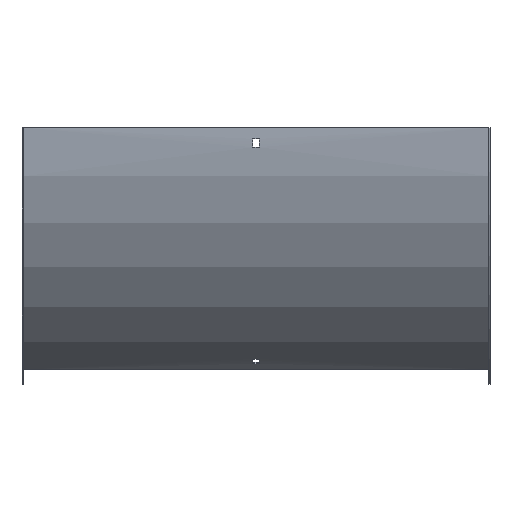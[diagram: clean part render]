
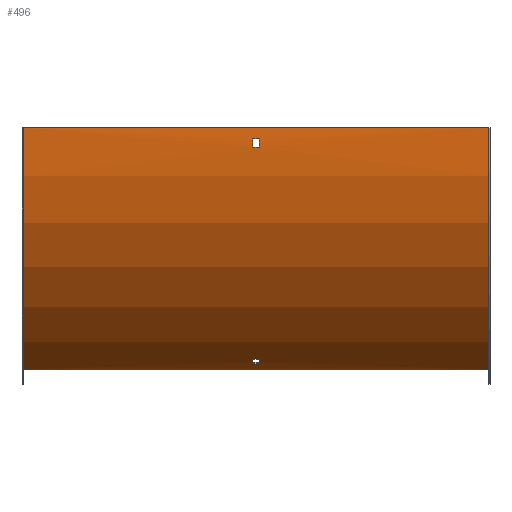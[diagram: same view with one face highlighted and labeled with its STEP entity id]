
A CAD part, front view. The second image highlights one B-rep face of the part: STEP entity #496.
In plain terms, the highlighted cylindrical face has radius 300 mm (diameter 600 mm), a partial arc.
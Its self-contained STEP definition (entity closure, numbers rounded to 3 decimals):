
#3 = CARTESIAN_POINT ( 'NONE',  ( 3.25, 130.681, -248.67 ) ) ;
#7 = ORIENTED_EDGE ( 'NONE', *, *, #326, .T. ) ;
#10 = EDGE_CURVE ( 'NONE', #549, #385, #30, .T. ) ;
#12 = FACE_BOUND ( 'NONE', #599, .T. ) ;
#23 = CIRCLE ( 'NONE', #131, 300. ) ;
#24 = AXIS2_PLACEMENT_3D ( 'NONE', #327, #494, #64 ) ;
#27 = DIRECTION ( 'NONE',  ( 0., 0., 1. ) ) ;
#28 = ORIENTED_EDGE ( 'NONE', *, *, #374, .F. ) ;
#30 = LINE ( 'NONE', #461, #36 ) ;
#36 = VECTOR ( 'NONE', #415, 1000. ) ;
#39 = EDGE_CURVE ( 'NONE', #192, #313, #365, .T. ) ;
#42 = DIRECTION ( 'NONE',  ( 0., 0., 1. ) ) ;
#46 = VERTEX_POINT ( 'NONE', #3 ) ;
#49 = EDGE_CURVE ( 'NONE', #560, #271, #148, .T. ) ;
#50 = CARTESIAN_POINT ( 'NONE',  ( 3.25, 138.228, -253.6 ) ) ;
#51 = DIRECTION ( 'NONE',  ( -1., 0., 0. ) ) ;
#56 = DIRECTION ( 'NONE',  ( 0., 0., 1. ) ) ;
#59 = CARTESIAN_POINT ( 'NONE',  ( 251.5, 138.228, -253.6 ) ) ;
#64 = DIRECTION ( 'NONE',  ( 0., 0., 1. ) ) ;
#66 = EDGE_CURVE ( 'NONE', #573, #192, #375, .T. ) ;
#75 = CIRCLE ( 'NONE', #521, 300. ) ;
#89 = DIRECTION ( 'NONE',  ( -1., 0., 0. ) ) ;
#101 = CIRCLE ( 'NONE', #449, 300. ) ;
#107 = ORIENTED_EDGE ( 'NONE', *, *, #474, .T. ) ;
#122 = CARTESIAN_POINT ( 'NONE',  ( 251.5, -0.764, -21. ) ) ;
#125 = AXIS2_PLACEMENT_3D ( 'NONE', #431, #481, #178 ) ;
#128 = DIRECTION ( 'NONE',  ( 1., 0., 0. ) ) ;
#131 = AXIS2_PLACEMENT_3D ( 'NONE', #567, #51, #603 ) ;
#135 = CIRCLE ( 'NONE', #495, 300. ) ;
#148 = LINE ( 'NONE', #424, #284 ) ;
#156 = VERTEX_POINT ( 'NONE', #438 ) ;
#158 = EDGE_CURVE ( 'NONE', #385, #255, #135, .T. ) ;
#178 = DIRECTION ( 'NONE',  ( 0., 1., 0. ) ) ;
#181 = DIRECTION ( 'NONE',  ( -1., 0., 0. ) ) ;
#192 = VERTEX_POINT ( 'NONE', #604 ) ;
#200 = ORIENTED_EDGE ( 'NONE', *, *, #66, .T. ) ;
#202 = EDGE_LOOP ( 'NONE', ( #428, #307, #417, #513 ) ) ;
#209 = EDGE_CURVE ( 'NONE', #271, #156, #101, .T. ) ;
#212 = ORIENTED_EDGE ( 'NONE', *, *, #39, .T. ) ;
#216 = VECTOR ( 'NONE', #482, 1000. ) ;
#229 = VECTOR ( 'NONE', #589, 1000. ) ;
#233 = FACE_BOUND ( 'NONE', #466, .T. ) ;
#246 = CARTESIAN_POINT ( 'NONE',  ( -250., 298.5, 0. ) ) ;
#250 = EDGE_CURVE ( 'NONE', #549, #498, #75, .T. ) ;
#255 = VERTEX_POINT ( 'NONE', #506 ) ;
#268 = CARTESIAN_POINT ( 'NONE',  ( 3.25, -1.26, -12. ) ) ;
#271 = VERTEX_POINT ( 'NONE', #306 ) ;
#279 = CARTESIAN_POINT ( 'NONE',  ( 251.5, 130.681, -248.67 ) ) ;
#284 = VECTOR ( 'NONE', #181, 1000. ) ;
#299 = CARTESIAN_POINT ( 'NONE',  ( 250., 298.5, 0. ) ) ;
#300 = EDGE_CURVE ( 'NONE', #498, #255, #432, .T. ) ;
#306 = CARTESIAN_POINT ( 'NONE',  ( -3.25, -1.26, -12. ) ) ;
#307 = ORIENTED_EDGE ( 'NONE', *, *, #10, .F. ) ;
#311 = CARTESIAN_POINT ( 'NONE',  ( -3.25, 298.5, 0. ) ) ;
#313 = VERTEX_POINT ( 'NONE', #575 ) ;
#321 = CARTESIAN_POINT ( 'NONE',  ( -250., 148.5, -259.808 ) ) ;
#323 = CARTESIAN_POINT ( 'NONE',  ( 250., -1.5, 0. ) ) ;
#326 = EDGE_CURVE ( 'NONE', #313, #46, #530, .T. ) ;
#327 = CARTESIAN_POINT ( 'NONE',  ( 251.5, 298.5, 0. ) ) ;
#331 = VECTOR ( 'NONE', #426, 1000. ) ;
#335 = CYLINDRICAL_SURFACE ( 'NONE', #24, 300. ) ;
#343 = ORIENTED_EDGE ( 'NONE', *, *, #49, .F. ) ;
#359 = CARTESIAN_POINT ( 'NONE',  ( 3.25, -0.764, -21. ) ) ;
#360 = VERTEX_POINT ( 'NONE', #359 ) ;
#365 = CIRCLE ( 'NONE', #125, 300. ) ;
#374 = EDGE_CURVE ( 'NONE', #360, #560, #23, .T. ) ;
#375 = LINE ( 'NONE', #59, #576 ) ;
#376 = CARTESIAN_POINT ( 'NONE',  ( 3.25, 298.5, 0. ) ) ;
#384 = EDGE_CURVE ( 'NONE', #156, #360, #472, .T. ) ;
#385 = VERTEX_POINT ( 'NONE', #321 ) ;
#390 = ORIENTED_EDGE ( 'NONE', *, *, #384, .F. ) ;
#397 = DIRECTION ( 'NONE',  ( 0., 0., 1. ) ) ;
#415 = DIRECTION ( 'NONE',  ( -1., 0., 0. ) ) ;
#417 = ORIENTED_EDGE ( 'NONE', *, *, #250, .T. ) ;
#424 = CARTESIAN_POINT ( 'NONE',  ( 251.5, -1.26, -12. ) ) ;
#426 = DIRECTION ( 'NONE',  ( 1., 0., 0. ) ) ;
#428 = ORIENTED_EDGE ( 'NONE', *, *, #158, .F. ) ;
#431 = CARTESIAN_POINT ( 'NONE',  ( -3.25, 298.5, 0. ) ) ;
#432 = LINE ( 'NONE', #323, #216 ) ;
#436 = AXIS2_PLACEMENT_3D ( 'NONE', #376, #579, #56 ) ;
#438 = CARTESIAN_POINT ( 'NONE',  ( -3.25, -0.764, -21. ) ) ;
#439 = CARTESIAN_POINT ( 'NONE',  ( 250., -1.5, 0. ) ) ;
#449 = AXIS2_PLACEMENT_3D ( 'NONE', #311, #128, #397 ) ;
#461 = CARTESIAN_POINT ( 'NONE',  ( 250., 148.5, -259.808 ) ) ;
#466 = EDGE_LOOP ( 'NONE', ( #510, #343, #28, #390 ) ) ;
#472 = LINE ( 'NONE', #122, #331 ) ;
#474 = EDGE_CURVE ( 'NONE', #46, #573, #591, .T. ) ;
#481 = DIRECTION ( 'NONE',  ( -1., 0., 0. ) ) ;
#482 = DIRECTION ( 'NONE',  ( -1., 0., 0. ) ) ;
#485 = FACE_OUTER_BOUND ( 'NONE', #202, .T. ) ;
#494 = DIRECTION ( 'NONE',  ( -1., 0., 0. ) ) ;
#495 = AXIS2_PLACEMENT_3D ( 'NONE', #246, #555, #27 ) ;
#496 = ADVANCED_FACE ( 'NONE', ( #233, #485, #12 ), #335, .T. ) ;
#498 = VERTEX_POINT ( 'NONE', #439 ) ;
#503 = CARTESIAN_POINT ( 'NONE',  ( 250., 148.5, -259.808 ) ) ;
#506 = CARTESIAN_POINT ( 'NONE',  ( -250., -1.5, 0. ) ) ;
#510 = ORIENTED_EDGE ( 'NONE', *, *, #209, .F. ) ;
#513 = ORIENTED_EDGE ( 'NONE', *, *, #300, .T. ) ;
#517 = DIRECTION ( 'NONE',  ( -1., 0., 0. ) ) ;
#521 = AXIS2_PLACEMENT_3D ( 'NONE', #299, #517, #42 ) ;
#530 = LINE ( 'NONE', #279, #229 ) ;
#549 = VERTEX_POINT ( 'NONE', #503 ) ;
#555 = DIRECTION ( 'NONE',  ( -1., 0., 0. ) ) ;
#560 = VERTEX_POINT ( 'NONE', #268 ) ;
#567 = CARTESIAN_POINT ( 'NONE',  ( 3.25, 298.5, 0. ) ) ;
#573 = VERTEX_POINT ( 'NONE', #50 ) ;
#575 = CARTESIAN_POINT ( 'NONE',  ( -3.25, 130.681, -248.67 ) ) ;
#576 = VECTOR ( 'NONE', #89, 1000. ) ;
#579 = DIRECTION ( 'NONE',  ( 1., 0., 0. ) ) ;
#589 = DIRECTION ( 'NONE',  ( 1., 0., 0. ) ) ;
#591 = CIRCLE ( 'NONE', #436, 300. ) ;
#599 = EDGE_LOOP ( 'NONE', ( #200, #212, #7, #107 ) ) ;
#603 = DIRECTION ( 'NONE',  ( 0., 0., -1. ) ) ;
#604 = CARTESIAN_POINT ( 'NONE',  ( -3.25, 138.228, -253.6 ) ) ;
